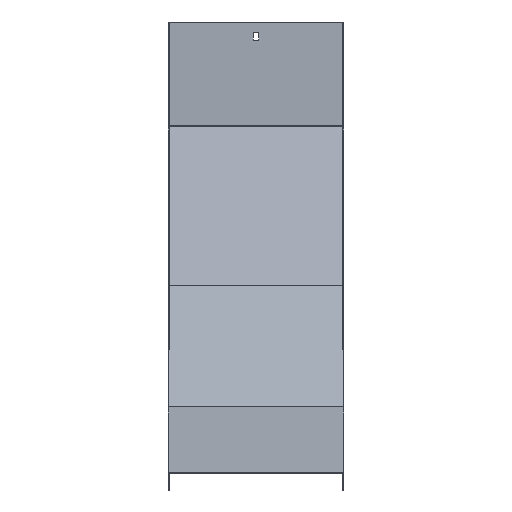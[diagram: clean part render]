
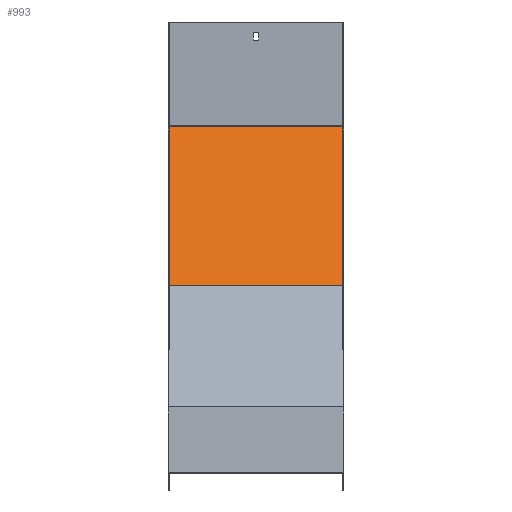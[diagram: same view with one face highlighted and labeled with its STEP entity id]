
A CAD part, top view. The second image highlights one B-rep face of the part: STEP entity #993.
In plain terms, the highlighted planar face has unit normal (0, 0.383, 0.924).
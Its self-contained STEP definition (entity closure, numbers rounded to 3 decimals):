
#7 = PLANE ( 'NONE',  #440 ) ;
#8 = CARTESIAN_POINT ( 'NONE',  ( -101.5, 216.868, -444.566 ) ) ;
#20 = VERTEX_POINT ( 'NONE', #671 ) ;
#147 = CARTESIAN_POINT ( 'NONE',  ( 101.5, 400.72, -520.72 ) ) ;
#148 = CARTESIAN_POINT ( 'NONE',  ( -101.5, 400.72, -520.72 ) ) ;
#201 = LINE ( 'NONE', #228, #746 ) ;
#228 = CARTESIAN_POINT ( 'NONE',  ( 101.5, 216.868, -444.566 ) ) ;
#282 = DIRECTION ( 'NONE',  ( 0., 0.924, -0.383 ) ) ;
#301 = EDGE_CURVE ( 'NONE', #20, #367, #859, .T. ) ;
#315 = ORIENTED_EDGE ( 'NONE', *, *, #476, .F. ) ;
#324 = VECTOR ( 'NONE', #909, 1000. ) ;
#367 = VERTEX_POINT ( 'NONE', #148 ) ;
#382 = VECTOR ( 'NONE', #282, 1000. ) ;
#422 = EDGE_LOOP ( 'NONE', ( #315, #540, #760, #954 ) ) ;
#440 = AXIS2_PLACEMENT_3D ( 'NONE', #1105, #856, #667 ) ;
#476 = EDGE_CURVE ( 'NONE', #923, #367, #525, .T. ) ;
#492 = DIRECTION ( 'NONE',  ( -1., 0., 0. ) ) ;
#496 = VECTOR ( 'NONE', #492, 1000. ) ;
#525 = LINE ( 'NONE', #8, #382 ) ;
#540 = ORIENTED_EDGE ( 'NONE', *, *, #685, .F. ) ;
#563 = DIRECTION ( 'NONE',  ( -1., 0., 0. ) ) ;
#568 = CARTESIAN_POINT ( 'NONE',  ( -101.5, 216.868, -444.566 ) ) ;
#598 = EDGE_CURVE ( 'NONE', #724, #20, #744, .T. ) ;
#667 = DIRECTION ( 'NONE',  ( 0., -0.924, 0.383 ) ) ;
#671 = CARTESIAN_POINT ( 'NONE',  ( 101.5, 400.72, -520.72 ) ) ;
#685 = EDGE_CURVE ( 'NONE', #724, #923, #201, .T. ) ;
#724 = VERTEX_POINT ( 'NONE', #1094 ) ;
#744 = LINE ( 'NONE', #1091, #324 ) ;
#746 = VECTOR ( 'NONE', #563, 1000. ) ;
#760 = ORIENTED_EDGE ( 'NONE', *, *, #598, .T. ) ;
#856 = DIRECTION ( 'NONE',  ( 0., 0.383, 0.924 ) ) ;
#859 = LINE ( 'NONE', #147, #496 ) ;
#909 = DIRECTION ( 'NONE',  ( 0., 0.924, -0.383 ) ) ;
#923 = VERTEX_POINT ( 'NONE', #568 ) ;
#944 = FACE_OUTER_BOUND ( 'NONE', #422, .T. ) ;
#954 = ORIENTED_EDGE ( 'NONE', *, *, #301, .T. ) ;
#993 = ADVANCED_FACE ( 'NONE', ( #944 ), #7, .T. ) ;
#1091 = CARTESIAN_POINT ( 'NONE',  ( 101.5, 216.868, -444.566 ) ) ;
#1094 = CARTESIAN_POINT ( 'NONE',  ( 101.5, 216.868, -444.566 ) ) ;
#1105 = CARTESIAN_POINT ( 'NONE',  ( 101.5, 216.868, -444.566 ) ) ;
